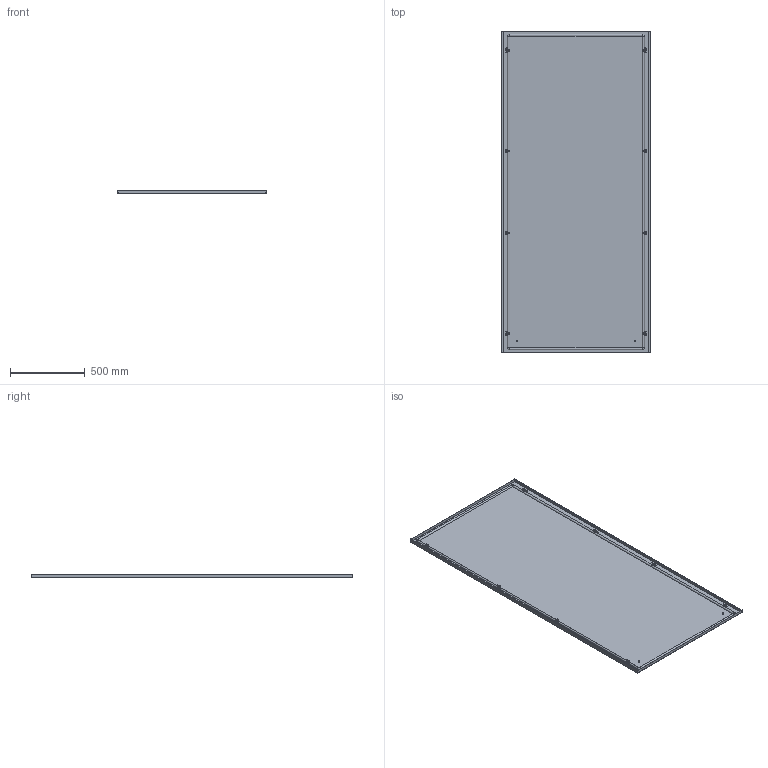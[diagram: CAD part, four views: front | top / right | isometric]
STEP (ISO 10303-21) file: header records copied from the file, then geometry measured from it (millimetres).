
FILE_DESCRIPTION(('Open CASCADE Model'),'2;1');
FILE_NAME('Open CASCADE Shape Model','2025-02-07T16:30:50',('Author'),( 'Open CASCADE'),'Open CASCADE STEP processor 7.8','Open CASCADE 7.8' ,'Unknown');
FILE_SCHEMA(('AUTOMOTIVE_DESIGN { 1 0 10303 214 1 1 1 1 }'));
Length unit declared in the file: millimetre
Products named in the file (10): Compound1; Compound2; Compound3; Solid1; Solid2; Solid3; Solid4; Solid5; Solid6; Solid7
Assembly tree (40 placements, depth 4):
  Compound1
    Compound2
      Compound3
        Solid1
        Solid2  x4
      Solid3
    Solid4  x8
    Solid5  x8
    Solid6  x8
    Solid7  x8
Bounding box: 994 x 2155 x 23.8 mm (x, y, z)
Volume: 4006026.9 mm3; surface area: 4879136.4 mm2
Topology: 38 solids, 38 shells, 1655 faces, 4040 edges, 2460 vertices
Faces by surface type: plane 1043, cone 308, cylinder 268, torus 28, bspline 8
Full cylindrical faces by diameter (mm): 5 x16, 6 x132, 7.5 x4, 8 x16, 10 x8, 11.57 x8
Entity records: 7757 total; most frequent: CARTESIAN_POINT 1447, DIRECTION 1265, ORIENTED_EDGE 1244, EDGE_CURVE 622, AXIS2_PLACEMENT_3D 428, LINE 409, VECTOR 409, VERTEX_POINT 387
